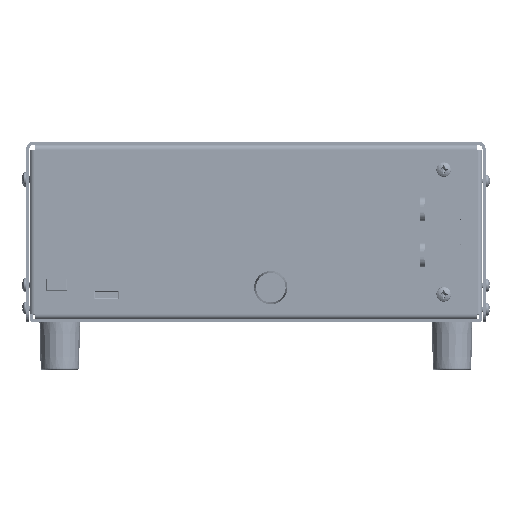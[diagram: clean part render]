
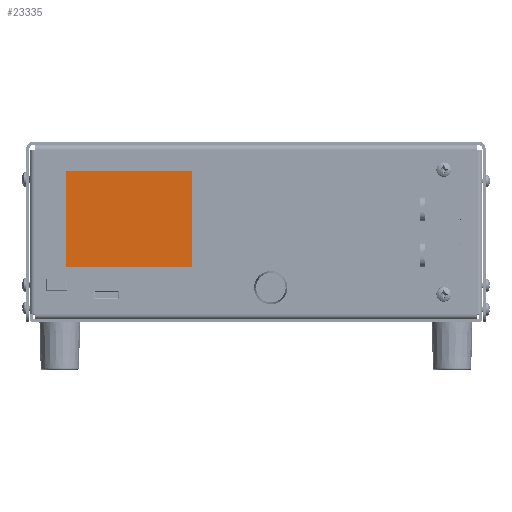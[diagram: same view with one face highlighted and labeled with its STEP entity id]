
A CAD part, front view. The second image highlights one B-rep face of the part: STEP entity #23335.
In plain terms, the highlighted planar face has unit normal (0, -1, 0) as drawn and (0, 0, 1) by its records, which use the part's own axes.
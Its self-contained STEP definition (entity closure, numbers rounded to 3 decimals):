
#23335=ADVANCED_FACE('',(#50000),#50001,.T.);
#50000=FACE_OUTER_BOUND('',#98944,.T.);
#50001=PLANE('',#98945);
#98944=EDGE_LOOP('',(#167045,#167046,#167047,#167048));
#98945=AXIS2_PLACEMENT_3D('',#167049,#167050,#167051);
#167045=ORIENTED_EDGE('',*,*,#215424,.F.);
#167046=ORIENTED_EDGE('',*,*,#215437,.F.);
#167047=ORIENTED_EDGE('',*,*,#215433,.F.);
#167048=ORIENTED_EDGE('',*,*,#215429,.F.);
#167049=CARTESIAN_POINT('',(34.79,28.78,-5.5));
#167050=DIRECTION('',(-0.0,0.0,1.0));
#167051=DIRECTION('',(1.0,0.0,0.0));
#215424=EDGE_CURVE('',#260426,#260427,#260428,.T.);
#215429=EDGE_CURVE('',#260427,#260435,#260436,.T.);
#215433=EDGE_CURVE('',#260435,#260441,#260442,.T.);
#215437=EDGE_CURVE('',#260441,#260426,#260447,.T.);
#260426=VERTEX_POINT('',#326238);
#260427=VERTEX_POINT('',#326239);
#260428=LINE('',#326240,#326241);
#260435=VERTEX_POINT('',#326251);
#260436=LINE('',#326252,#326253);
#260441=VERTEX_POINT('',#326260);
#260442=LINE('',#326261,#326262);
#260447=LINE('',#326269,#326270);
#326238=CARTESIAN_POINT('',(4.49,51.88,-5.5));
#326239=CARTESIAN_POINT('',(65.09,51.88,-5.5));
#326240=CARTESIAN_POINT('',(4.49,51.88,-5.5));
#326241=VECTOR('',#368362,1.0);
#326251=CARTESIAN_POINT('',(65.09,5.68,-5.5));
#326252=CARTESIAN_POINT('',(65.09,51.88,-5.5));
#326253=VECTOR('',#368366,1.0);
#326260=CARTESIAN_POINT('',(4.49,5.68,-5.5));
#326261=CARTESIAN_POINT('',(65.09,5.68,-5.5));
#326262=VECTOR('',#368369,1.0);
#326269=CARTESIAN_POINT('',(4.49,5.68,-5.5));
#326270=VECTOR('',#368372,1.0);
#368362=DIRECTION('',(1.0,0.0,0.0));
#368366=DIRECTION('',(0.0,-1.0,0.0));
#368369=DIRECTION('',(-1.0,0.0,0.0));
#368372=DIRECTION('',(0.0,1.0,0.0));
